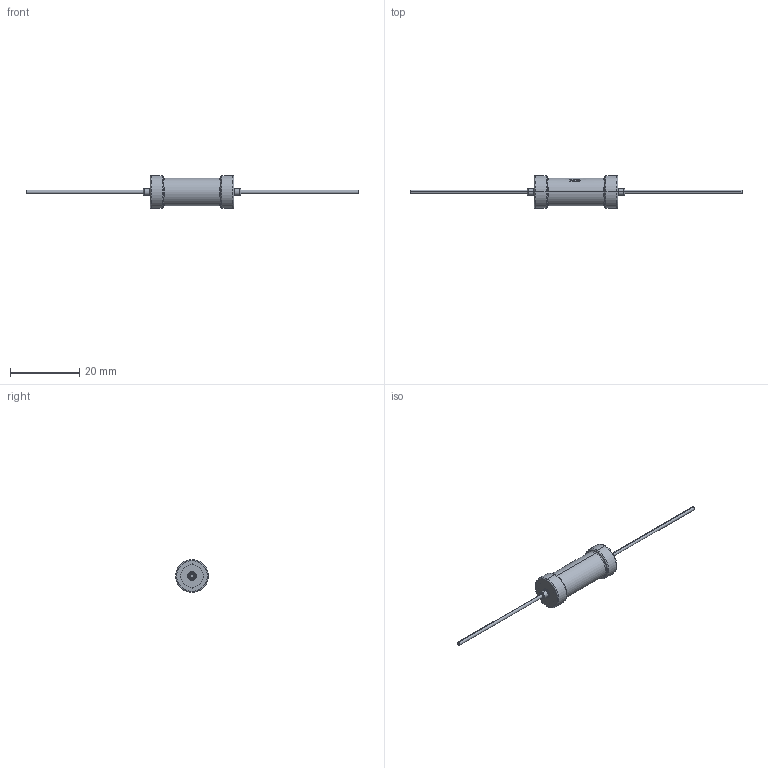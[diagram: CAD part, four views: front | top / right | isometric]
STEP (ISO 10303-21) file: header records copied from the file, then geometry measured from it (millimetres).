
FILE_DESCRIPTION (( 'STEP AP203' ), '1' );
FILE_NAME ('HVHR2408.STEP', '2024-10-25T03:07:42', ( '' ), ( '' ), 'SwSTEP 2.0', 'SolidWorks 2022', '' );
FILE_SCHEMA (( 'CONFIG_CONTROL_DESIGN' ));
Length unit declared in the file: millimetre
Products named in the file (1): HVHR2408
Bounding box: 95.6 x 9.5 x 9.5 mm (x, y, z)
Volume: 1427.1 mm3; surface area: 2691.2 mm2
Topology: 4 solids, 4 shells, 413 faces, 1055 edges, 694 vertices
Faces by surface type: bspline 175, plane 144, cylinder 66, torus 28
Entity records: 22585 total; most frequent: CARTESIAN_POINT 13885, ORIENTED_EDGE 2110, DIRECTION 1215, EDGE_CURVE 1055, VERTEX_POINT 694, B_SPLINE_CURVE_WITH_KNOTS 554, AXIS2_PLACEMENT_3D 475, EDGE_LOOP 459
